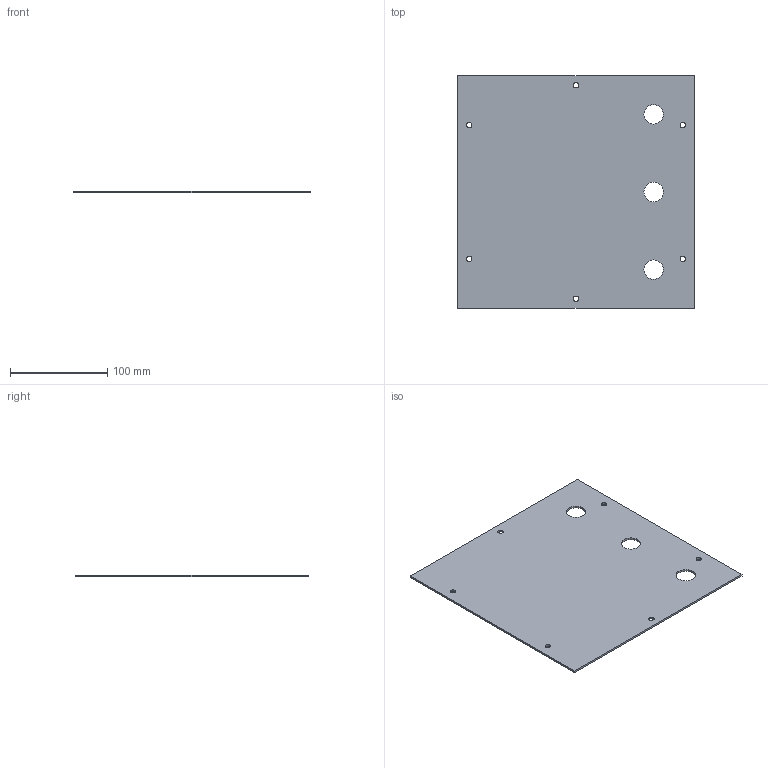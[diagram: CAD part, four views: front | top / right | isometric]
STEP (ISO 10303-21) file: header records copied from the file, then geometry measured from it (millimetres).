
FILE_DESCRIPTION(('CATIA V5 STEP Exchange'),'2;1');
FILE_NAME('D:\姚明阳\1、工装图纸\工作3、激光测距测试机箱\测试机箱\板材\Duanmianban_V1.stp','2022-12-27T08:55:02+00:00',('none'),('none'),'CATIA Version 5 Release 21 GA (IN-10)','CATIA V5 STEP AP214','none');
FILE_SCHEMA(('AUTOMOTIVE_DESIGN { 1 0 10303 214 1 1 1 1 }'));
Length unit declared in the file: millimetre
Products named in the file (1): Duanmianban
Bounding box: 244 x 240 x 2 mm (x, y, z)
Volume: 114949.9 mm3; surface area: 117470.3 mm2
Topology: 1 solids, 1 shells, 24 faces, 66 edges, 44 vertices
Faces by surface type: cylinder 18, plane 6
Entity records: 763 total; most frequent: ORIENTED_EDGE 132, CARTESIAN_POINT 126, DIRECTION 96, EDGE_CURVE 66, AXIS2_PLACEMENT_3D 52, VERTEX_POINT 44, EDGE_LOOP 42, CIRCLE 36
